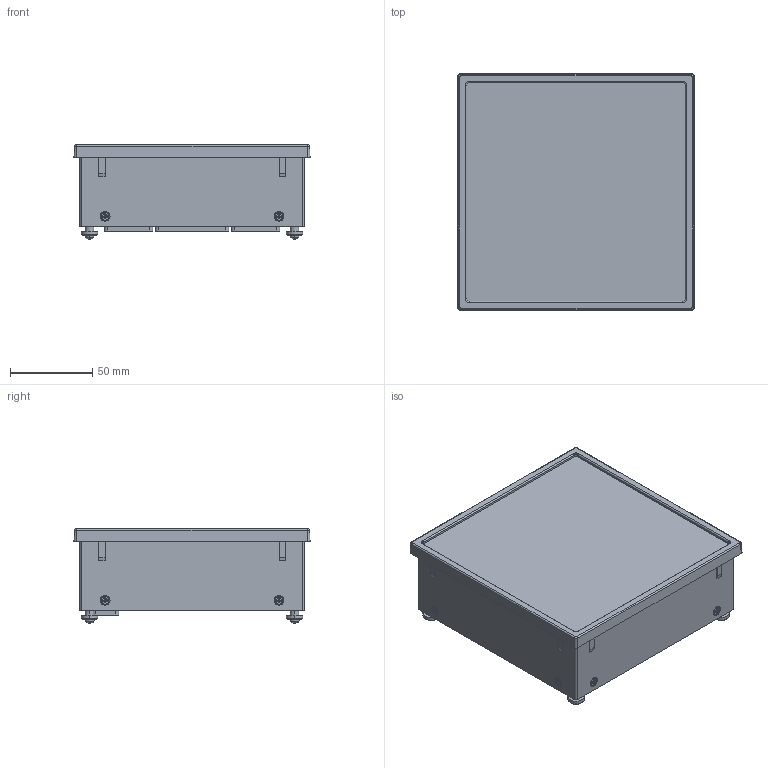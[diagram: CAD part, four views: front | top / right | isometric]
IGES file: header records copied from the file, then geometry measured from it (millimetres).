
Global section: file name: No Iges File Name specified; native system: Autodesk Inventor 2011; preprocessor: AutoDesk Inventor Iges Exporter R2011; author: oey; date: 20110203.102345; units: millimetre
Bounding box: 144 x 144 x 57.48 mm (x, y, z)
Volume: 239237.6 mm3; surface area: 146991.6 mm2
Topology: 1 solids, 15 shells, 1923 faces, 6447 edges, 5214 vertices
Faces by surface type: plane 1054, revolution 362, cylinder 165, cone 144, bspline 128, torus 58, sphere 12
